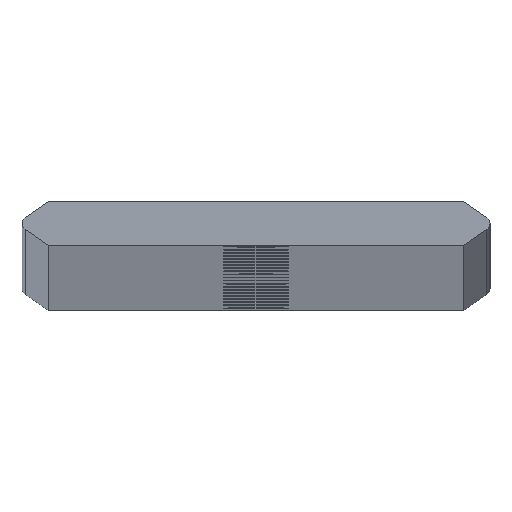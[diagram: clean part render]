
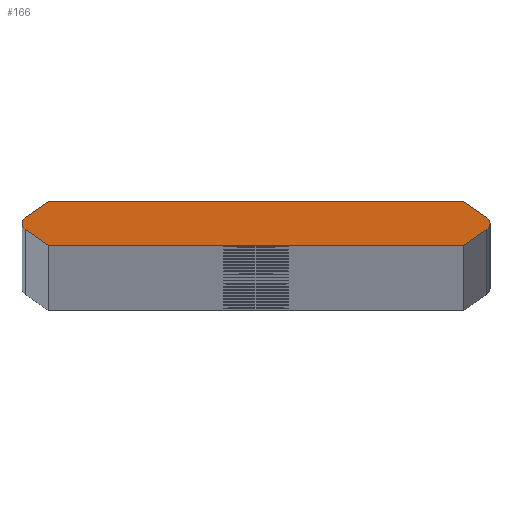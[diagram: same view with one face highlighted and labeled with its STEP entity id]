
A CAD part, top view. The second image highlights one B-rep face of the part: STEP entity #166.
In plain terms, the highlighted planar face has unit normal (0, 0, 1).
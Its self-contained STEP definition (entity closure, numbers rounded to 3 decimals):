
#166=ADVANCED_FACE('',(#358),#359,.T.);
#358=FACE_OUTER_BOUND('',#646,.T.);
#359=PLANE('',#647);
#646=EDGE_LOOP('',(#1389,#1390,#1391,#1392,#1393,#1394,#1395,#1396,#1397,#1398));
#647=AXIS2_PLACEMENT_3D('',#1399,#1400,#1401);
#1389=ORIENTED_EDGE('',*,*,#1645,.T.);
#1390=ORIENTED_EDGE('',*,*,#1914,.T.);
#1391=ORIENTED_EDGE('',*,*,#1915,.F.);
#1392=ORIENTED_EDGE('',*,*,#1916,.F.);
#1393=ORIENTED_EDGE('',*,*,#1917,.F.);
#1394=ORIENTED_EDGE('',*,*,#1641,.T.);
#1395=ORIENTED_EDGE('',*,*,#1918,.T.);
#1396=ORIENTED_EDGE('',*,*,#1919,.F.);
#1397=ORIENTED_EDGE('',*,*,#1920,.F.);
#1398=ORIENTED_EDGE('',*,*,#1921,.F.);
#1399=CARTESIAN_POINT('',(0.,0.,3956.0));
#1400=DIRECTION('',(0.0,0.0,1.0));
#1401=DIRECTION('',(1.0,0.0,0.0));
#1641=EDGE_CURVE('',#1937,#1934,#1938,.T.);
#1645=EDGE_CURVE('',#1945,#1942,#1946,.T.);
#1914=EDGE_CURVE('',#1942,#2392,#2394,.T.);
#1915=EDGE_CURVE('',#2395,#2392,#2396,.T.);
#1916=EDGE_CURVE('',#2397,#2395,#2398,.T.);
#1917=EDGE_CURVE('',#1937,#2397,#2399,.T.);
#1918=EDGE_CURVE('',#1934,#2400,#2401,.T.);
#1919=EDGE_CURVE('',#2402,#2400,#2403,.T.);
#1920=EDGE_CURVE('',#2404,#2402,#2405,.T.);
#1921=EDGE_CURVE('',#1945,#2404,#2406,.T.);
#1934=VERTEX_POINT('',#2424);
#1937=VERTEX_POINT('',#2428);
#1938=CIRCLE('',#2429,0.76);
#1942=VERTEX_POINT('',#2434);
#1945=VERTEX_POINT('',#2438);
#1946=CIRCLE('',#2439,0.76);
#2392=VERTEX_POINT('',#2974);
#2394=CIRCLE('',#2977,0.76);
#2395=VERTEX_POINT('',#2978);
#2396=LINE('',#2979,#2980);
#2397=VERTEX_POINT('',#2981);
#2398=LINE('',#2982,#2983);
#2399=LINE('',#2984,#2985);
#2400=VERTEX_POINT('',#2986);
#2401=CIRCLE('',#2987,0.76);
#2402=VERTEX_POINT('',#2988);
#2403=LINE('',#2989,#2990);
#2404=VERTEX_POINT('',#2991);
#2405=LINE('',#2992,#2993);
#2406=LINE('',#2994,#2995);
#2424=CARTESIAN_POINT('',(24.85,0.,3956.0));
#2428=CARTESIAN_POINT('',(24.529,-0.62,3956.0));
#2429=AXIS2_PLACEMENT_3D('',#3025,#3026,#3027);
#2434=CARTESIAN_POINT('',(-24.85,0.,3956.0));
#2438=CARTESIAN_POINT('',(-24.529,0.62,3956.0));
#2439=AXIS2_PLACEMENT_3D('',#3033,#3034,#3035);
#2974=CARTESIAN_POINT('',(-24.529,-0.62,3956.0));
#2977=AXIS2_PLACEMENT_3D('',#3660,#3661,#3662);
#2978=CARTESIAN_POINT('',(-22.059,-2.35,3956.0));
#2979=CARTESIAN_POINT('',(-25.415,0.,3956.0));
#2980=VECTOR('',#3663,1.0);
#2981=CARTESIAN_POINT('',(22.059,-2.35,3956.0));
#2982=CARTESIAN_POINT('',(22.059,-2.35,3956.0));
#2983=VECTOR('',#3664,1.0);
#2984=CARTESIAN_POINT('',(25.415,0.0,3956.0));
#2985=VECTOR('',#3665,1.0);
#2986=CARTESIAN_POINT('',(24.529,0.62,3956.0));
#2987=AXIS2_PLACEMENT_3D('',#3666,#3667,#3668);
#2988=CARTESIAN_POINT('',(22.059,2.35,3956.0));
#2989=CARTESIAN_POINT('',(25.415,0.0,3956.0));
#2990=VECTOR('',#3669,1.0);
#2991=CARTESIAN_POINT('',(-22.059,2.35,3956.0));
#2992=CARTESIAN_POINT('',(-22.059,2.35,3956.0));
#2993=VECTOR('',#3670,1.0);
#2994=CARTESIAN_POINT('',(-25.415,0.,3956.0));
#2995=VECTOR('',#3671,1.0);
#3025=CARTESIAN_POINT('',(24.09,0.0,3956.0));
#3026=DIRECTION('',(0.0,0.0,1.0));
#3027=DIRECTION('',(1.0,0.0,0.0));
#3033=CARTESIAN_POINT('',(-24.09,0.,3956.0));
#3034=DIRECTION('',(0.0,0.0,1.0));
#3035=DIRECTION('',(-1.0,0.,0.0));
#3660=CARTESIAN_POINT('',(-24.09,0.,3956.0));
#3661=DIRECTION('',(0.0,0.0,1.0));
#3662=DIRECTION('',(-1.0,0.,0.0));
#3663=DIRECTION('',(-0.819,0.574,0.0));
#3664=DIRECTION('',(-1.0,0.,0.0));
#3665=DIRECTION('',(-0.819,-0.574,0.0));
#3666=CARTESIAN_POINT('',(24.09,0.0,3956.0));
#3667=DIRECTION('',(0.0,0.0,1.0));
#3668=DIRECTION('',(1.0,0.0,0.0));
#3669=DIRECTION('',(0.819,-0.574,0.0));
#3670=DIRECTION('',(1.0,0.,0.0));
#3671=DIRECTION('',(0.819,0.574,0.0));
